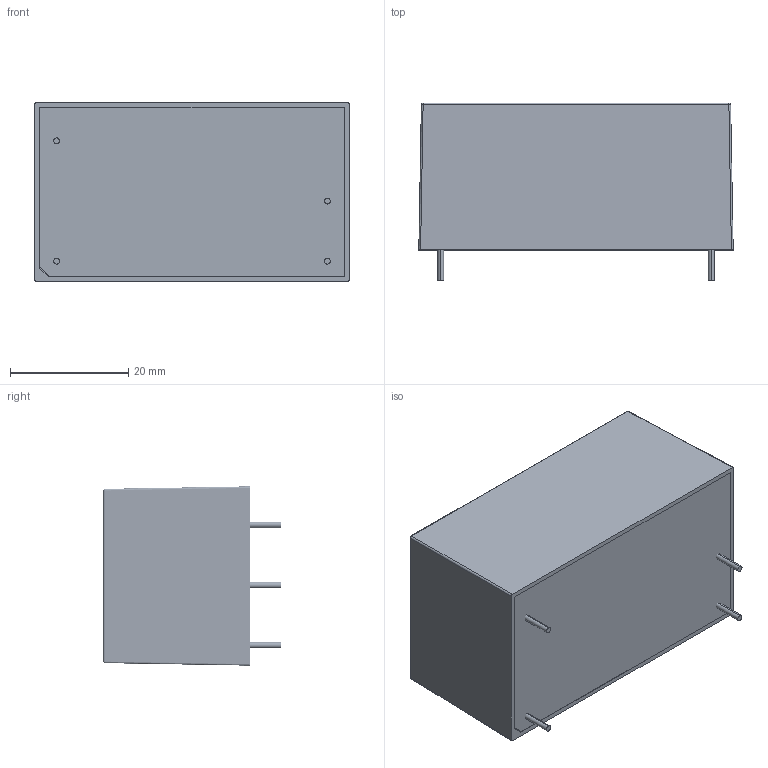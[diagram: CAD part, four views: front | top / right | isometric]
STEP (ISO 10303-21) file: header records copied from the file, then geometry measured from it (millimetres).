
FILE_DESCRIPTION (( 'STEP AP214' ), '1' );
FILE_NAME ('CFM25SXXX-E¦¨«~¹Ï(02)-1090421.STEP', '2020-04-21T03:17:23', ( '' ), ( '' ), 'SwSTEP 2.0', 'SolidWorks 2017', '' );
FILE_SCHEMA (( 'AUTOMOTIVE_DESIGN' ));
Length unit declared in the file: millimetre
Products named in the file (17): CFM25 L5; 電晶體10mm; CFM25S CASE G5689109106 (M-B425-00-M)-1060301; 6W PIN(B)G7200030020-1050920; (B)D4-1050901; CFM25SXXX PCB-1051208; CFM25SXXX-E成品圖(02)-1090421; CFM25½¦-1051115; CFM25 CORE; C陶瓷電容d8-1051118; D4-1050901; CFM25 CY4 105,09,01; CFM25變壓器(參考); CFM25SXXX PCB(02)-1090421
Assembly tree (17 placements, depth 2):
  CFM25SXXX-E成品圖(02)-1090421
    CFM25S CASE G5689109106 (M-B425-00-M)-1060301
    CFM25SXXX PCB(02)-1090421
    電晶體10mm
    CFM25 CORE
    D4-1050901
    C陶瓷電容d8-1051118
    CFM25變壓器(參考)
    CFM25 CY4 105,09,01  x2
    (B)D4-1050901
    CFM25 L5
    CFM25½¦-1051115
    6W PIN(B)G7200030020-1050920
    6W PIN(B)G7200030020-1050920
    6W PIN(B)G7200030020-1050920
    6W PIN(B)G7200030020-1050920
    CFM25SXXX PCB-1051208
Bounding box: 53.1 x 30 x 30.3 mm (x, y, z)
Volume: 23152.2 mm3; surface area: 29306.7 mm2
Topology: 21 solids, 21 shells, 2837 faces, 7750 edges, 4724 vertices
Faces by surface type: bspline 1254, cylinder 1244, plane 277, torus 54, sphere 8
Entity records: 121421 total; most frequent: CARTESIAN_POINT 38990, ORIENTED_EDGE 15374, DIRECTION 14575, EDGE_CURVE 7687, AXIS2_PLACEMENT_3D 6367, CIRCLE 4784, VERTEX_POINT 4692, EDGE_LOOP 2877
